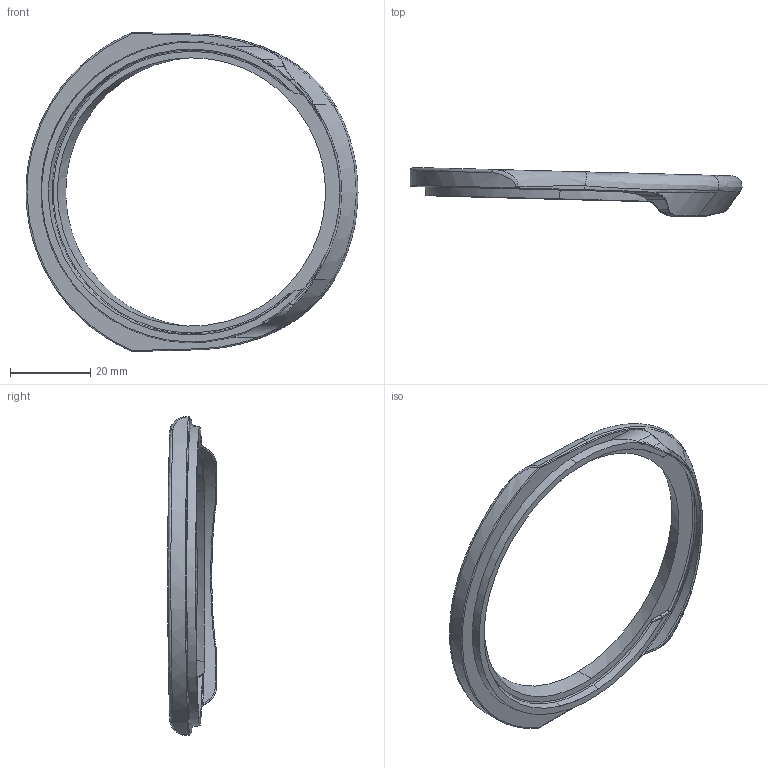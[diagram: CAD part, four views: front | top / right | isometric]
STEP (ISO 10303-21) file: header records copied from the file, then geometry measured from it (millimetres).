
FILE_DESCRIPTION (( 'STEP AP214' ), '1' );
FILE_NAME ('P-00161 - Sink Drain Gasket - v2.2.5_Default Configuration.STEP', '2026-06-12T21:49:06', ( '' ), ( '' ), 'SwSTEP 2.0', 'SolidWorks 2023', '' );
FILE_SCHEMA (( 'AUTOMOTIVE_DESIGN' ));
Length unit declared in the file: inch
Products named in the file (1): P-00161 - Sink Drain Gasket - v2.2.5_Default Configuration
Bounding box: 82.69 x 12.1 x 79.45 mm (x, y, z)
Volume: 9497.4 mm3; surface area: 6837.2 mm2
Topology: 1 solids, 1 shells, 105 faces, 297 edges, 190 vertices
Faces by surface type: bspline 72, plane 15, cylinder 10, sphere 8
Entity records: 9569 total; most frequent: CARTESIAN_POINT 7546, ORIENTED_EDGE 586, EDGE_CURVE 293, B_SPLINE_CURVE_WITH_KNOTS 198, VERTEX_POINT 190, DIRECTION 184, EDGE_LOOP 107, FACE_OUTER_BOUND 105
